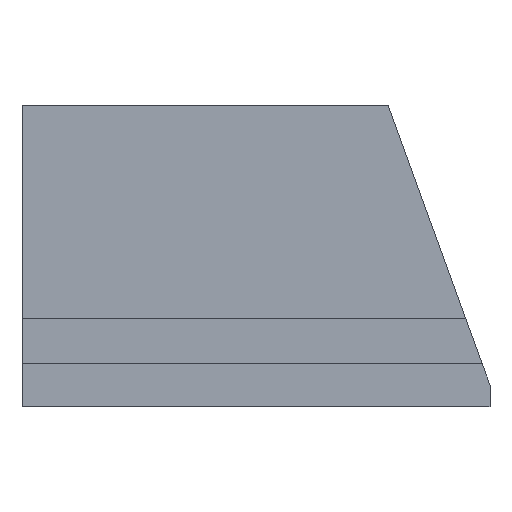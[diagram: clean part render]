
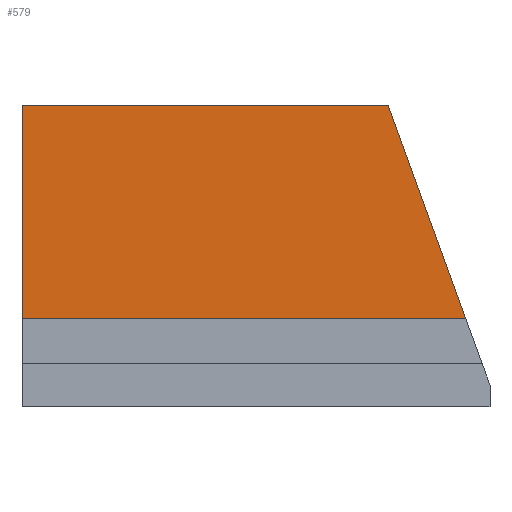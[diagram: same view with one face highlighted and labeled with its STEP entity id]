
A CAD part, front view. The second image highlights one B-rep face of the part: STEP entity #579.
In plain terms, the highlighted planar face has unit normal (0, -1, 0).
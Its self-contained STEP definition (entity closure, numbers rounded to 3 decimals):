
#579 = ADVANCED_FACE( '', ( #1194 ), #1195, .T. );
#1194 = FACE_OUTER_BOUND( '', #2810, .T. );
#1195 = PLANE( '', #2811 );
#2810 = EDGE_LOOP( '', ( #4756, #4757, #4758, #4759 ) );
#2811 = AXIS2_PLACEMENT_3D( '', #4760, #4761, #4762 );
#4756 = ORIENTED_EDGE( '', *, *, #5092, .F. );
#4757 = ORIENTED_EDGE( '', *, *, #5431, .T. );
#4758 = ORIENTED_EDGE( '', *, *, #5585, .T. );
#4759 = ORIENTED_EDGE( '', *, *, #5439, .F. );
#4760 = CARTESIAN_POINT( '', ( -110., -125., -70. ) );
#4761 = DIRECTION( '', ( 0., -1., 0. ) );
#4762 = DIRECTION( '', ( 1., 0., 0. ) );
#5092 = EDGE_CURVE( '', #5848, #5850, #5851, .T. );
#5431 = EDGE_CURVE( '', #5848, #6360, #6362, .T. );
#5439 = EDGE_CURVE( '', #5850, #6371, #6372, .T. );
#5585 = EDGE_CURVE( '', #6360, #6371, #6563, .T. );
#5848 = VERTEX_POINT( '', #7129 );
#5850 = VERTEX_POINT( '', #7132 );
#5851 = LINE( '', #7133, #7134 );
#6360 = VERTEX_POINT( '', #8061 );
#6362 = LINE( '', #8064, #8065 );
#6371 = VERTEX_POINT( '', #8076 );
#6372 = LINE( '', #8077, #8078 );
#6563 = LINE( '', #8562, #8563 );
#7129 = CARTESIAN_POINT( '', ( 0., -125., -49.5 ) );
#7132 = CARTESIAN_POINT( '', ( 0., -125., 0. ) );
#7133 = CARTESIAN_POINT( '', ( 0., -125., -70. ) );
#7134 = VECTOR( '', #8932, 1000. );
#8061 = CARTESIAN_POINT( '', ( 103.017, -125., -49.5 ) );
#8064 = CARTESIAN_POINT( '', ( -110., -125., -49.5 ) );
#8065 = VECTOR( '', #9350, 1000. );
#8076 = CARTESIAN_POINT( '', ( 85., -125., 0. ) );
#8077 = CARTESIAN_POINT( '', ( -110., -125., 0. ) );
#8078 = VECTOR( '', #9359, 1000. );
#8562 = CARTESIAN_POINT( '', ( 84.687, -125., 0.86 ) );
#8563 = VECTOR( '', #9505, 1000. );
#8932 = DIRECTION( '', ( 0., 0., 1. ) );
#9350 = DIRECTION( '', ( 1., 0., 0. ) );
#9359 = DIRECTION( '', ( 1., 0., 0. ) );
#9505 = DIRECTION( '', ( -0.342, 0., 0.94 ) );
